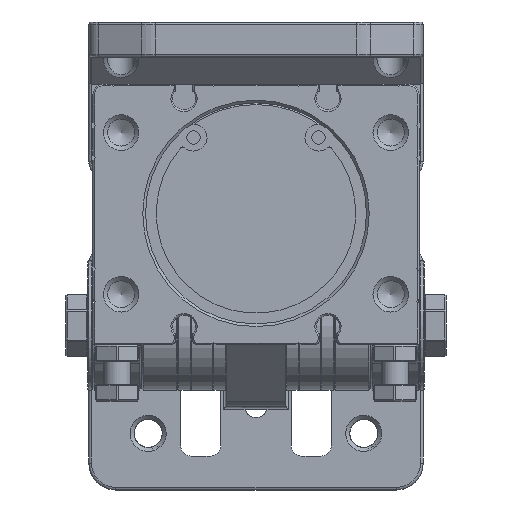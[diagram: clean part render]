
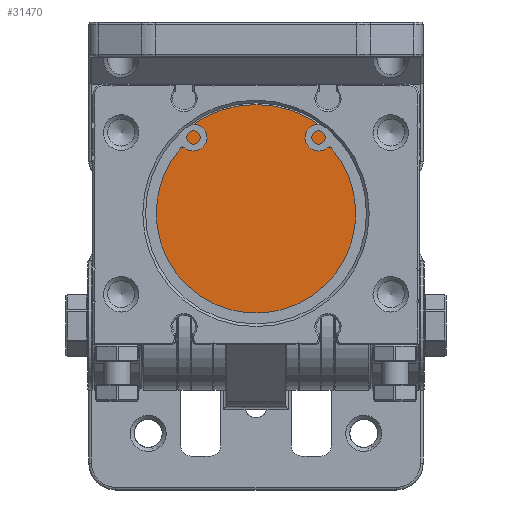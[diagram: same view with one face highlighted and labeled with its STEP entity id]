
A CAD part, front view. The second image highlights one B-rep face of the part: STEP entity #31470.
In plain terms, the highlighted planar face has unit normal (0, -1, 0).
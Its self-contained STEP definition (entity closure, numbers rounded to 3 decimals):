
#2023=FACE_OUTER_BOUND('',#13649,.T.);
#11387=PLANE('',#38399);
#13649=EDGE_LOOP('',(#22765));
#22765=ORIENTED_EDGE('',*,*,#28235,.T.);
#28235=EDGE_CURVE('',#35497,#35497,#29533,.T.);
#29533=CIRCLE('',#38398,20.2);
#31470=ADVANCED_FACE('',(#2023),#11387,.F.);
#35497=VERTEX_POINT('',#79070);
#38398=AXIS2_PLACEMENT_3D('',#79069,#47152,#47153);
#38399=AXIS2_PLACEMENT_3D('',#79071,#47154,#47155);
#47152=DIRECTION('',(0.,-1.,0.));
#47153=DIRECTION('',(0.,0.,1.));
#47154=DIRECTION('',(0.,1.,0.));
#47155=DIRECTION('',(0.,0.,-1.));
#79069=CARTESIAN_POINT('',(0.,4.8,200.));
#79070=CARTESIAN_POINT('',(0.,4.8,220.2));
#79071=CARTESIAN_POINT('',(-20.2,4.8,200.));
